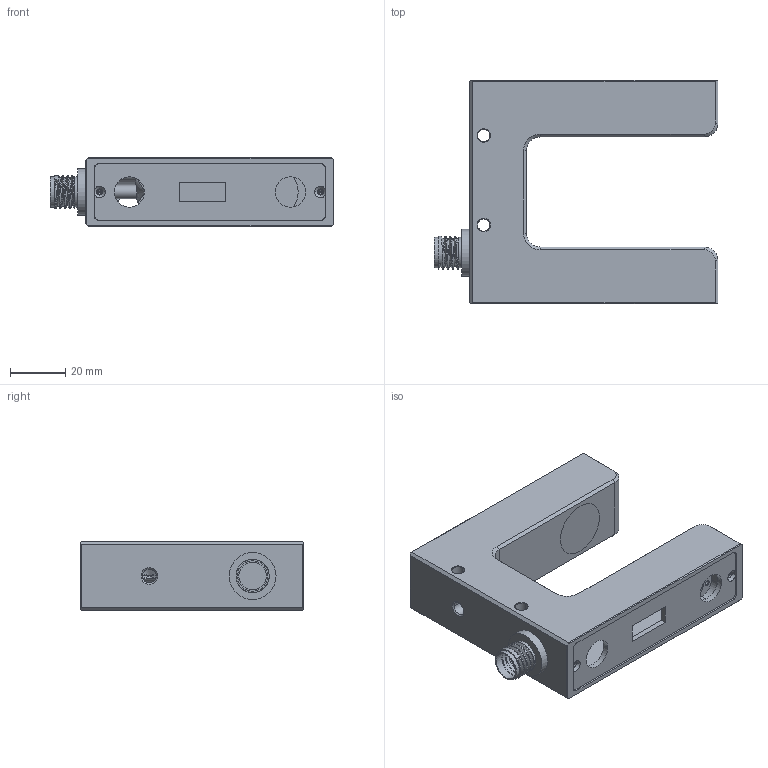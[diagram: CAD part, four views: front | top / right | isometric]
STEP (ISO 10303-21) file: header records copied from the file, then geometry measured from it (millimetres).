
FILE_DESCRIPTION(/* description */ (''),/* implementation_level */ '2;1');
FILE_NAME(/* name */ 'CS-400N.stp',/* time_stamp */ '2019-04-04T16:26:14+08:00',/* author */ (''),/* organization */ (''),/* preprocessor_version */ 'ST-DEVELOPER v14',/* originating_system */ 'SIEMENS PLM Software NX 8.0',/* authorisation */ '');
FILE_SCHEMA (('AP203_CONFIGURATION_CONTROLLED_3D_DESIGN_OF_MECHANICAL_PARTS_AND_ASSEMBLIES_MIM_LF { 1 0 10303 403 2 1 2}'));
Bounding box: 103.05 x 81 x 25 mm (x, y, z)
Volume: 61477.2 mm3; surface area: 39956.2 mm2
Topology: 6 solids, 6 shells, 280 faces, 712 edges, 432 vertices
Faces by surface type: cylinder 103, plane 93, cone 80, bspline 4
Full cylindrical faces by diameter (mm): 5 x1, 10 x2, 11 x2, 14 x1, 17 x1, 20 x2
Entity records: 9575 total; most frequent: CRTPNT 2352, DRCTN 1453, ORNEDG 1342, EDGCRV 671, A2PL3D 538, VRTPNT 428, LINE 377, VECTOR 377
